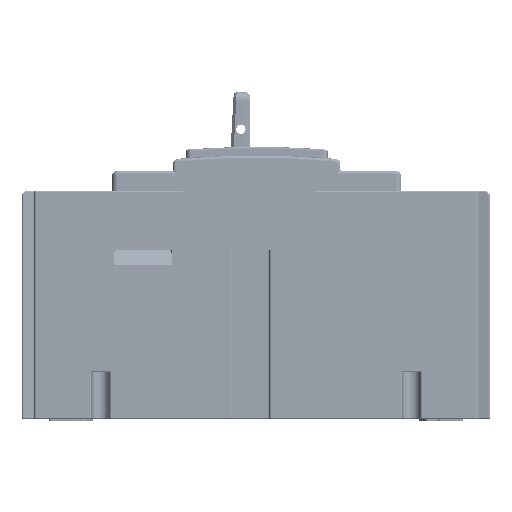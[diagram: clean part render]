
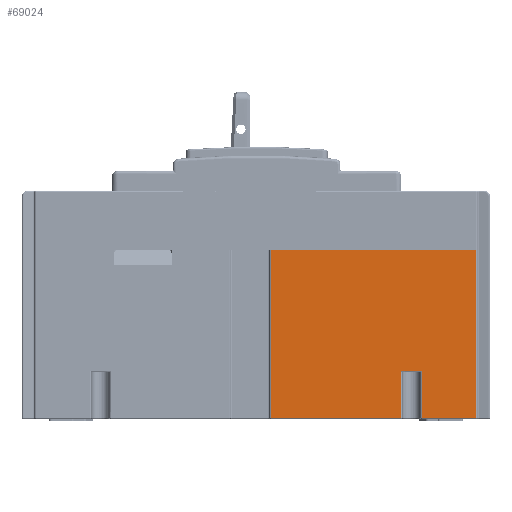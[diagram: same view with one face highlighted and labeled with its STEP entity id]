
A CAD part, left-side view. The second image highlights one B-rep face of the part: STEP entity #69024.
In plain terms, the highlighted planar face has unit normal (-1, 0, 0).
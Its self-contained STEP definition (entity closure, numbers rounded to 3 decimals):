
#6305=LINE('',#156409,#13658);
#6306=LINE('',#156411,#13659);
#6307=LINE('',#156413,#13660);
#6308=LINE('',#156415,#13661);
#6309=LINE('',#156417,#13662);
#6310=LINE('',#156419,#13663);
#6311=LINE('',#156421,#13664);
#6312=LINE('',#156422,#13665);
#13658=VECTOR('',#88584,45.75);
#13659=VECTOR('',#88585,16.5);
#13660=VECTOR('',#88586,7.5);
#13661=VECTOR('',#88587,16.5);
#13662=VECTOR('',#88588,18.95);
#13663=VECTOR('',#88589,59.);
#13664=VECTOR('',#88590,72.2);
#13665=VECTOR('',#88591,59.);
#19905=FACE_OUTER_BOUND('',#23794,.T.);
#23794=EDGE_LOOP('',(#56704,#56705,#56706,#56707,#56708,#56709,#56710,#56711));
#32031=VERTEX_POINT('',#156407);
#32032=VERTEX_POINT('',#156408);
#32033=VERTEX_POINT('',#156410);
#32034=VERTEX_POINT('',#156412);
#32035=VERTEX_POINT('',#156414);
#32036=VERTEX_POINT('',#156416);
#32037=VERTEX_POINT('',#156418);
#32038=VERTEX_POINT('',#156420);
#40726=EDGE_CURVE('',#32031,#32032,#6305,.T.);
#40727=EDGE_CURVE('',#32032,#32033,#6306,.T.);
#40728=EDGE_CURVE('',#32033,#32034,#6307,.T.);
#40729=EDGE_CURVE('',#32034,#32035,#6308,.T.);
#40730=EDGE_CURVE('',#32035,#32036,#6309,.T.);
#40731=EDGE_CURVE('',#32036,#32037,#6310,.T.);
#40732=EDGE_CURVE('',#32037,#32038,#6311,.T.);
#40733=EDGE_CURVE('',#32038,#32031,#6312,.T.);
#56704=ORIENTED_EDGE('',*,*,#40726,.T.);
#56705=ORIENTED_EDGE('',*,*,#40727,.T.);
#56706=ORIENTED_EDGE('',*,*,#40728,.T.);
#56707=ORIENTED_EDGE('',*,*,#40729,.T.);
#56708=ORIENTED_EDGE('',*,*,#40730,.T.);
#56709=ORIENTED_EDGE('',*,*,#40731,.T.);
#56710=ORIENTED_EDGE('',*,*,#40732,.T.);
#56711=ORIENTED_EDGE('',*,*,#40733,.T.);
#65806=PLANE('',#74610);
#69024=ADVANCED_FACE('',(#19905),#65806,.F.);
#74610=AXIS2_PLACEMENT_3D('',#156406,#88582,#88583);
#88582=DIRECTION('center_axis',(1.,0.,0.));
#88583=DIRECTION('ref_axis',(0.,0.,-1.));
#88584=DIRECTION('',(0.,-1.,0.));
#88585=DIRECTION('',(0.,0.,1.));
#88586=DIRECTION('',(0.,-1.,0.));
#88587=DIRECTION('',(0.,0.,-1.));
#88588=DIRECTION('',(0.,-1.,0.));
#88589=DIRECTION('',(0.,0.,1.));
#88590=DIRECTION('',(0.,1.,0.));
#88591=DIRECTION('',(0.,0.,-1.));
#156406=CARTESIAN_POINT('Origin',(183.467,94.5,-17.2));
#156407=CARTESIAN_POINT('',(183.467,165.7,-39.2));
#156408=CARTESIAN_POINT('',(183.467,119.95,-39.2));
#156409=CARTESIAN_POINT('',(183.467,165.7,-39.2));
#156410=CARTESIAN_POINT('',(183.467,119.95,-22.7));
#156411=CARTESIAN_POINT('',(183.467,119.95,-39.2));
#156412=CARTESIAN_POINT('',(183.467,112.45,-22.7));
#156413=CARTESIAN_POINT('',(183.467,119.95,-22.7));
#156414=CARTESIAN_POINT('',(183.467,112.45,-39.2));
#156415=CARTESIAN_POINT('',(183.467,112.45,-22.7));
#156416=CARTESIAN_POINT('',(183.467,93.5,-39.2));
#156417=CARTESIAN_POINT('',(183.467,112.45,-39.2));
#156418=CARTESIAN_POINT('',(183.467,93.5,19.8));
#156419=CARTESIAN_POINT('',(183.467,93.5,-39.2));
#156420=CARTESIAN_POINT('',(183.467,165.7,19.8));
#156421=CARTESIAN_POINT('',(183.467,93.5,19.8));
#156422=CARTESIAN_POINT('',(183.467,165.7,19.8));
